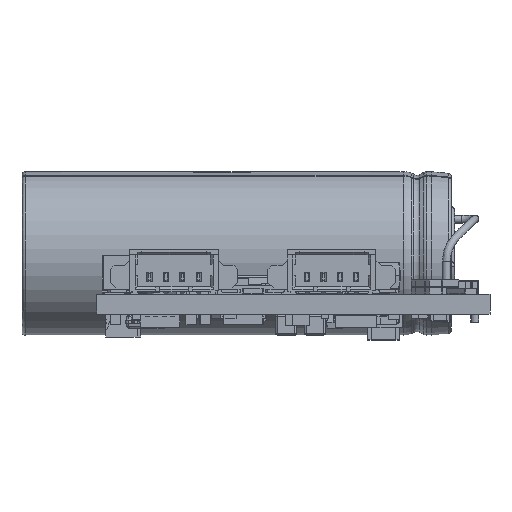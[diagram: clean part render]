
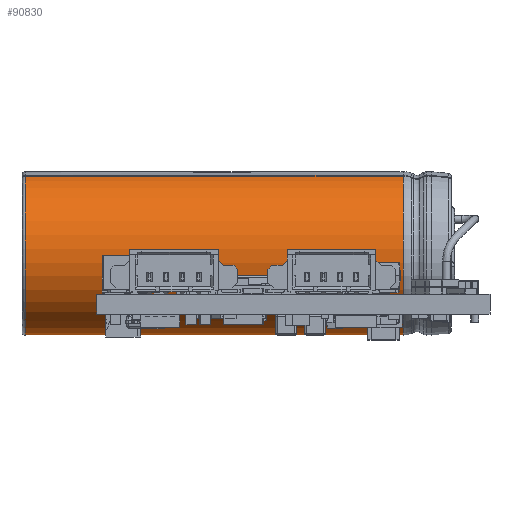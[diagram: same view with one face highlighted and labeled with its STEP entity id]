
A CAD part, front view. The second image highlights one B-rep face of the part: STEP entity #90830.
In plain terms, the highlighted cylindrical face has radius 6.25 mm (diameter 12.5 mm), a partial arc.
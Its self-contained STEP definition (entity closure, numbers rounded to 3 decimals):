
#8354=CIRCLE('',#98358,6.25);
#8355=CIRCLE('',#98360,6.25);
#9578=CYLINDRICAL_SURFACE('',#98359,6.25);
#14342=FACE_OUTER_BOUND('',#19475,.T.);
#19475=EDGE_LOOP('',(#81858,#81859,#81860,#81861));
#28315=LINE('',#160754,#37247);
#28341=LINE('',#160883,#37273);
#37247=VECTOR('',#120661,1.);
#37273=VECTOR('',#120795,1.);
#45199=VERTEX_POINT('',#160751);
#45200=VERTEX_POINT('',#160753);
#45248=VERTEX_POINT('',#160880);
#45249=VERTEX_POINT('',#160882);
#57417=EDGE_CURVE('',#45200,#45199,#28315,.T.);
#57481=EDGE_CURVE('',#45249,#45248,#28341,.T.);
#57537=EDGE_CURVE('',#45199,#45249,#8354,.T.);
#57538=EDGE_CURVE('',#45200,#45248,#8355,.T.);
#81858=ORIENTED_EDGE('',*,*,#57481,.T.);
#81859=ORIENTED_EDGE('',*,*,#57538,.F.);
#81860=ORIENTED_EDGE('',*,*,#57417,.T.);
#81861=ORIENTED_EDGE('',*,*,#57537,.T.);
#90830=ADVANCED_FACE('',(#14342),#9578,.T.);
#98358=AXIS2_PLACEMENT_3D('',#161984,#120883,#120884);
#98359=AXIS2_PLACEMENT_3D('',#161985,#120885,#120886);
#98360=AXIS2_PLACEMENT_3D('',#161986,#120887,#120888);
#120661=DIRECTION('',(-1.,0.,0.));
#120795=DIRECTION('',(1.,0.,0.));
#120883=DIRECTION('center_axis',(1.,0.,0.));
#120884=DIRECTION('ref_axis',(0.,0.,-1.));
#120885=DIRECTION('center_axis',(1.,0.,0.));
#120886=DIRECTION('ref_axis',(0.,0.,-1.));
#120887=DIRECTION('center_axis',(1.,0.,0.));
#120888=DIRECTION('ref_axis',(0.,0.,-1.));
#160751=CARTESIAN_POINT('',(-31.95,-1.879,3.761));
#160753=CARTESIAN_POINT('',(-3.12,-1.879,3.761));
#160754=CARTESIAN_POINT('',(-17.535,-1.879,3.761));
#160880=CARTESIAN_POINT('',(-3.12,1.879,3.761));
#160882=CARTESIAN_POINT('',(-31.95,1.879,3.761));
#160883=CARTESIAN_POINT('',(-17.535,1.879,3.761));
#161984=CARTESIAN_POINT('Origin',(-31.95,0.,-2.2));
#161985=CARTESIAN_POINT('Origin',(-17.535,0.,-2.2));
#161986=CARTESIAN_POINT('Origin',(-3.12,0.,-2.2));
